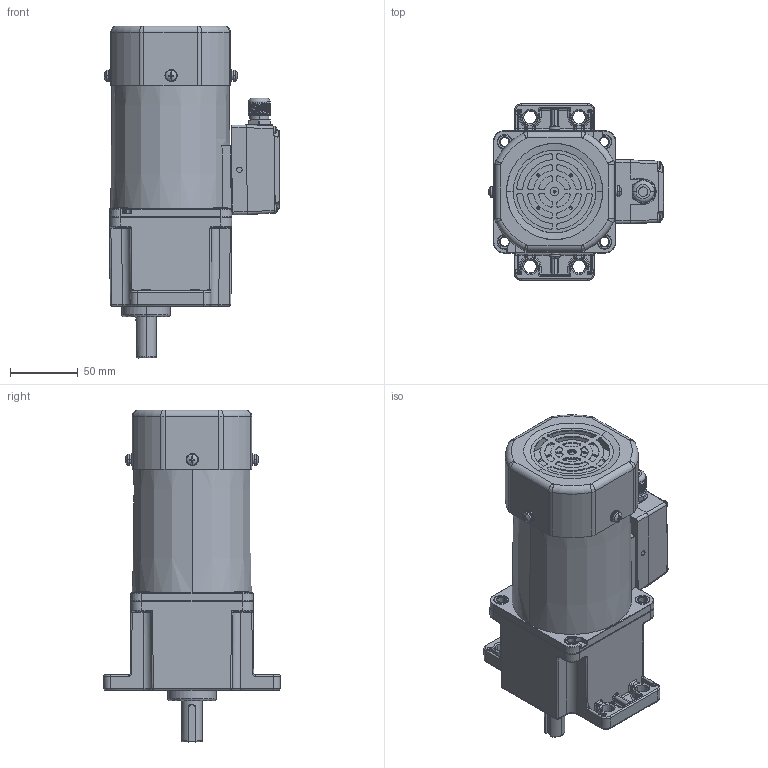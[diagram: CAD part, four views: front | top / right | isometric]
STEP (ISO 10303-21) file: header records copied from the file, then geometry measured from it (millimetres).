
FILE_DESCRIPTION (( 'STEP AP203' ), '1' );
FILE_NAME ('5IK120RGU-CFT(5GU3K-200K).STEP', '2023-08-09T02:29:12', ( 'Windows User' ), ( 'P R C' ), 'SwSTEP 2.0', 'SolidWorks 2019', '' );
FILE_SCHEMA (( 'CONFIG_CONTROL_DESIGN' ));
Length unit declared in the file: millimetre
Products named in the file (14): ^____5IK120RGU-CFT(5GU3K-200K)(2)_5IK120RGU-CFT(5GU3K-200K); ^___5IK120RGU-CFT(5GU3K-200K)(2)_5IK120RGU-CFT(5GU3K-200K); ^__5IK120RGU-CFT(5GU3K-200K)(2)_5IK120RGU-CFT(5GU3K-200K); 葩璃 (2) ^__5IK120RGU-CFT(5GU3K-200K)(2)_5IK120RGU-CFT(5GU3K-200K); 5GU3K-200K^5IK120RGU-CFT(5GU3K-200K)(2)_5IK120RGU-CFT(5GU3K-200K); 葩璃 (3) ^____5IK120RGU-CFT(5GU3K-200K)(2)_5IK120RGU-CFT(5GU3K-200K); 5IK120RGU-CFT(5GU3K-200K)(2)^5IK120RGU-CFT(5GU3K-200K); ^_5IK120RGU-CFT(5GU3K-200K)(2)_5IK120RGU-CFT(5GU3K-200K); ^5GU3K-200K_5IK120RGU-CFT(5GU3K-200K)(2)_5IK120RGU-CFT(5GU3K-200K); ^_5GU3K-200K_5IK120RGU-CFT(5GU3K-200K)(2)_5IK120RGU-CFT(5GU3K-200K); 葩璃 (2) ^____5IK120RGU-CFT(5GU3K-200K)(2)_5IK120RGU-CFT(5GU3K-200K); ^5IK120RGU-CFT(5GU3K-200K)(2)_5IK120RGU-CFT(5GU3K-200K); 5IK120RGU-CFT(5GU3K-200K)
Assembly tree (16 placements, depth 7):
  5IK120RGU-CFT(5GU3K-200K)
    5IK120RGU-CFT(5GU3K-200K)(2)^5IK120RGU-CFT(5GU3K-200K)
      ^5IK120RGU-CFT(5GU3K-200K)(2)_5IK120RGU-CFT(5GU3K-200K)
        ^_5IK120RGU-CFT(5GU3K-200K)(2)_5IK120RGU-CFT(5GU3K-200K)
          ^__5IK120RGU-CFT(5GU3K-200K)(2)_5IK120RGU-CFT(5GU3K-200K)
            ^___5IK120RGU-CFT(5GU3K-200K)(2)_5IK120RGU-CFT(5GU3K-200K)
              ^____5IK120RGU-CFT(5GU3K-200K)(2)_5IK120RGU-CFT(5GU3K-200K)
              葩璃 (2) ^____5IK120RGU-CFT(5GU3K-200K)(2)_5IK120RGU-CFT(5GU3K-200K)
              葩璃 (3) ^____5IK120RGU-CFT(5GU3K-200K)(2)_5IK120RGU-CFT(5GU3K-200K)  x4
          ^__5IK120RGU-CFT(5GU3K-200K)(2)_5IK120RGU-CFT(5GU3K-200K)
          葩璃 (2) ^__5IK120RGU-CFT(5GU3K-200K)(2)_5IK120RGU-CFT(5GU3K-200K)
      5GU3K-200K^5IK120RGU-CFT(5GU3K-200K)(2)_5IK120RGU-CFT(5GU3K-200K)
        ^5GU3K-200K_5IK120RGU-CFT(5GU3K-200K)(2)_5IK120RGU-CFT(5GU3K-200K)
          ^_5GU3K-200K_5IK120RGU-CFT(5GU3K-200K)(2)_5IK120RGU-CFT(5GU3K-200K)
Bounding box: 129.3 x 129.97 x 244.5 mm (x, y, z)
Volume: 1352220.5 mm3; surface area: 160569.1 mm2
Topology: 21 solids, 21 shells, 1851 faces, 4695 edges, 2879 vertices
Faces by surface type: cylinder 716, cone 411, plane 398, bspline 131, torus 112, sphere 83
Entity records: 56812 total; most frequent: CARTESIAN_POINT 20977, ORIENTED_EDGE 7290, DIRECTION 7195, EDGE_CURVE 3645, AXIS2_PLACEMENT_3D 2916, VERTEX_POINT 2262, EDGE_LOOP 1575, CIRCLE 1558
